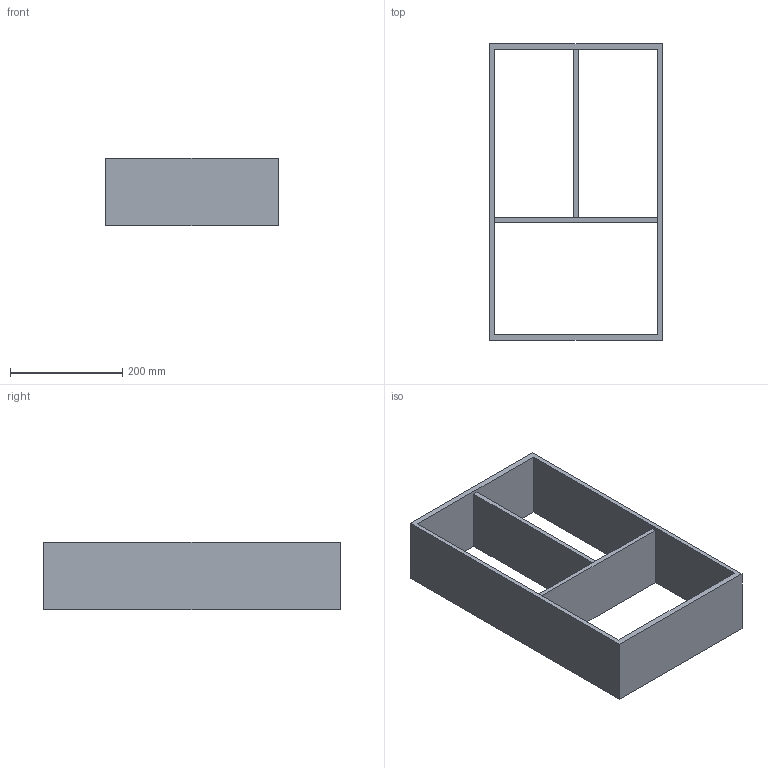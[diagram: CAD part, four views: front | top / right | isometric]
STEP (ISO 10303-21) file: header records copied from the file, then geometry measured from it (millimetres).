
FILE_DESCRIPTION (( 'STEP AP214' ), '1' );
FILE_NAME ('Vario Multi H120 NL550_B400_16 mm_Alu-Alu.step', '2010-10-08T09:48:06', ( 'grass' ), ( '' ), 'SwSTEP 2.0', 'SolidWorks 2010', '' );
FILE_SCHEMA (( 'AUTOMOTIVE_DESIGN' ));
Length unit declared in the file: millimetre
Products named in the file (1): Vario Multi H120 NL550_B400_16 mm_Alu-Alu
Bounding box: 308 x 529 x 120 mm (x, y, z)
Volume: 2326162.3 mm3; surface area: 563138.2 mm2
Topology: 1 solids, 1 shells, 18 faces, 48 edges, 32 vertices
Faces by surface type: plane 18
Entity records: 598 total; most frequent: CARTESIAN_POINT 99, ORIENTED_EDGE 96, DIRECTION 86, EDGE_CURVE 48, VECTOR 48, LINE 48, VERTEX_POINT 32, EDGE_LOOP 24
